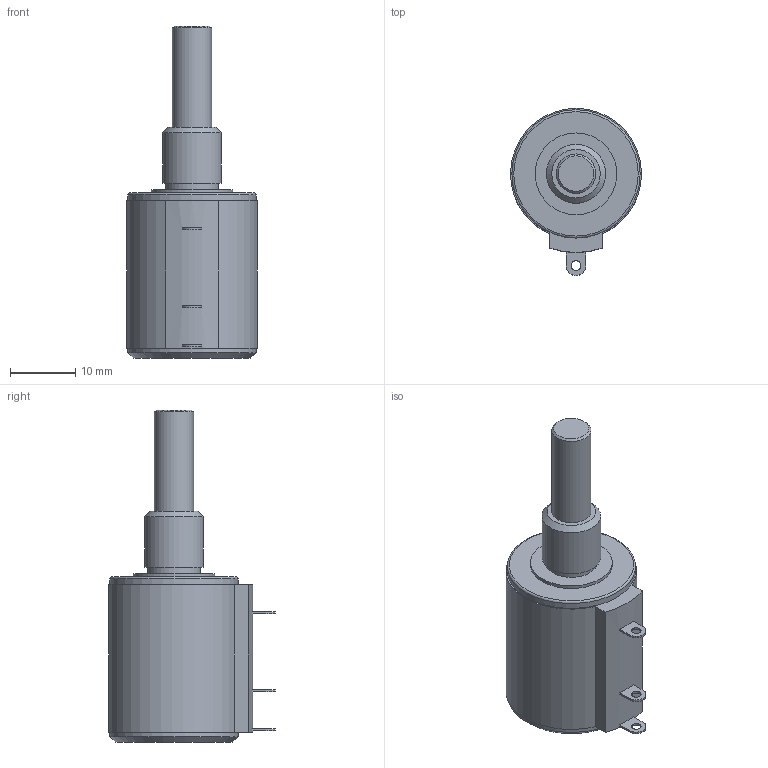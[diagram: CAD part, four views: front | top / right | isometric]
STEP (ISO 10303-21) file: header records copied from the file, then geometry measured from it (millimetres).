
FILE_DESCRIPTION (( 'STEP AP214' ), '1' );
FILE_NAME ('AL20.STEP', '2019-04-30T13:25:38', ( '' ), ( '' ), 'SwSTEP 2.0', 'SolidWorks 2017', '' );
FILE_SCHEMA (( 'AUTOMOTIVE_DESIGN' ));
Length unit declared in the file: millimetre
Products named in the file (1): AL20
Bounding box: 19.99 x 25.5 x 50.7 mm (x, y, z)
Volume: 9319.8 mm3; surface area: 2941.6 mm2
Topology: 1 solids, 1 shells, 43 faces, 99 edges, 67 vertices
Faces by surface type: plane 22, cylinder 17, cone 3, torus 1
Full cylindrical faces by diameter (mm): 1.5 x3, 6 x1, 8 x1, 9 x1, 12.5 x1, 19.6 x2
Entity records: 1159 total; most frequent: DIRECTION 211, CARTESIAN_POINT 183, ORIENTED_EDGE 158, AXIS2_PLACEMENT_3D 88, EDGE_CURVE 79, EDGE_LOOP 71, VERTEX_POINT 60, FACE_OUTER_BOUND 53
